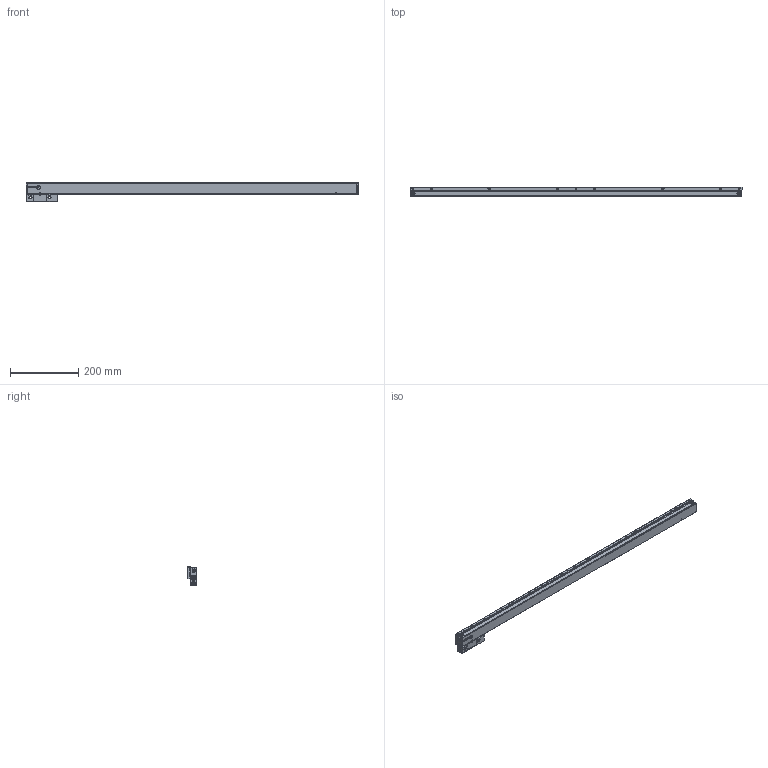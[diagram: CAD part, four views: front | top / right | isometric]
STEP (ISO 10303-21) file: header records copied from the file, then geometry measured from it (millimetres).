
FILE_DESCRIPTION(('Creo Elements/Direct Modeling STEP Export'),'2;1');
FILE_NAME('Regla SV2-870-V01A.stp','2022-11-30T 8:46:50',(''),(''),'Creo Elements/Direct Modeling STEP processor for AP214 (Solid Model)','Creo Elements/Direct Modeling 20.4A 18-Oct-2021 (C) Parametric Technology GmbH','');
FILE_SCHEMA(('AUTOMOTIVE_DESIGN { 1 0 10303 214 1 1 1 1 }'));
Length unit declared in the file: millimetre
Products named in the file (4): SOPORTE_SV3-870; REGLA_SV2-870; CABEZA_RANURADA_REGLA_SV2; REGLA_SV2-870-V01A
Assembly tree (3 placements, depth 2):
  REGLA_SV2-870-V01A
    CABEZA_RANURADA_REGLA_SV2
    REGLA_SV2-870
    SOPORTE_SV3-870
Bounding box: 975 x 28 x 56.2 mm (x, y, z)
Volume: 770858.3 mm3; surface area: 279625.8 mm2
Topology: 3 solids, 9 shells, 2033 faces, 5740 edges, 3769 vertices
Faces by surface type: plane 1030, cylinder 711, cone 172, bspline 90, torus 26, sphere 4
Entity records: 78512 total; most frequent: CARTESIAN_POINT 18566, ORIENTED_EDGE 11436, DIRECTION 9675, EDGE_CURVE 5718, VERTEX_POINT 3769, VECTOR 3233, LINE 3233, AXIS2_PLACEMENT_3D 3221
